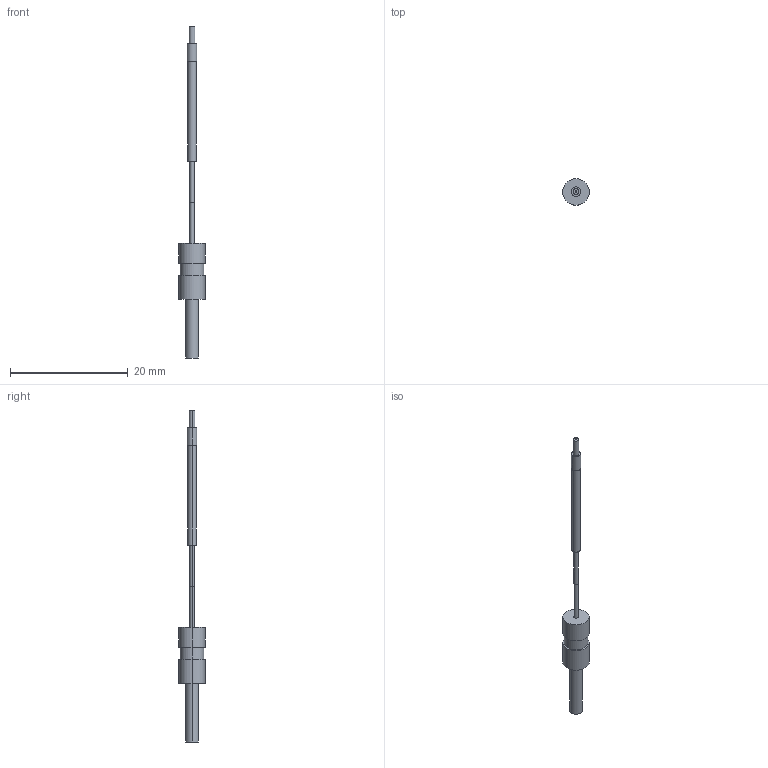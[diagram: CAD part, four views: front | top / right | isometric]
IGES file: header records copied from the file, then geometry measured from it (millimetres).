
Start section: SolidWorks IGES FILE using analytic representation for surfaces
Global section: file name: \\intra-srv04\開発データ\CAD_Data\CAD委員会\3D電子ｶﾀﾛｸﾞ\製品カタログ（新）\0_IGES\FT-PS1.IGS,41HSolidWorks 2004; native system: by SolidWorks Corporation; preprocessor: Version 5.3; author: mf1158; date: 050908.112114; units: millimetre
Bounding box: 4.5 x 4.5 x 56.5 mm (x, y, z)
Volume: 222.4 mm3; surface area: 372.9 mm2
Topology: 2 solids, 2 shells, 32 faces, 60 edges, 40 vertices
Faces by surface type: revolution 20, plane 12
